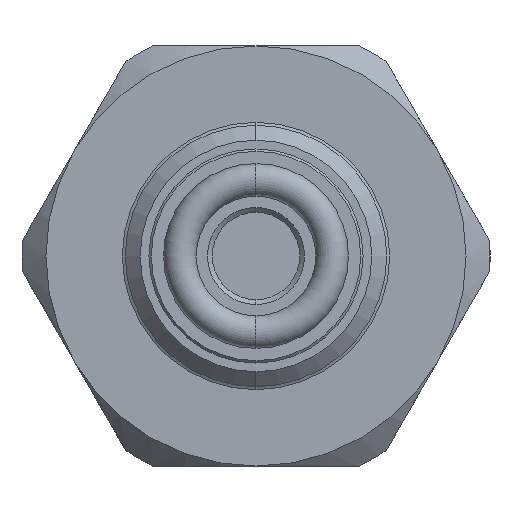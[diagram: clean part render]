
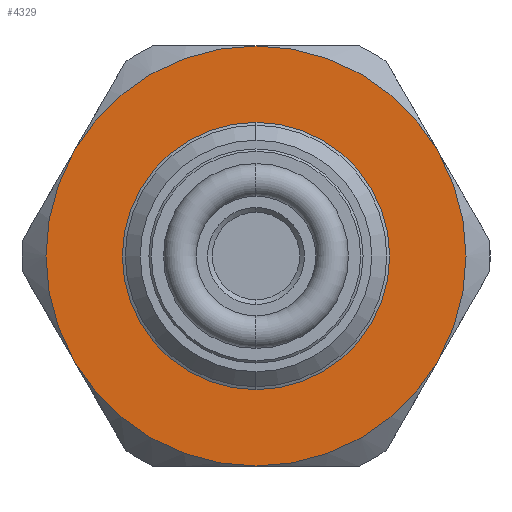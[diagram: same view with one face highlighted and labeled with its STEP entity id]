
A CAD part, left-side view. The second image highlights one B-rep face of the part: STEP entity #4329.
In plain terms, the highlighted planar face has unit normal (-1, 0, 0).
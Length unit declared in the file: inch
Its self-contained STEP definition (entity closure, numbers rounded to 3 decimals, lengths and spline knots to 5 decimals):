
#75 = CIRCLE ( 'NONE', #2194, 0.271 ) ;
#325 = EDGE_CURVE ( 'NONE', #14971, #16206, #2082, .T. ) ;
#921 = AXIS2_PLACEMENT_3D ( 'NONE', #12868, #1453, #1126 ) ;
#1126 = DIRECTION ( 'NONE',  ( 0., 0., 1. ) ) ;
#1347 = CIRCLE ( 'NONE', #8024, 0.4375 ) ;
#1363 = CARTESIAN_POINT ( 'NONE',  ( 0.6175, 0., 0. ) ) ;
#1418 = AXIS2_PLACEMENT_3D ( 'NONE', #1363, #11533, #5050 ) ;
#1453 = DIRECTION ( 'NONE',  ( -1., 0., 0. ) ) ;
#1577 = ORIENTED_EDGE ( 'NONE', *, *, #9438, .T. ) ;
#1689 = VERTEX_POINT ( 'NONE', #1878 ) ;
#1878 = CARTESIAN_POINT ( 'NONE',  ( 0.6175, 0., -0.4375 ) ) ;
#2082 = CIRCLE ( 'NONE', #7354, 0.4375 ) ;
#2194 = AXIS2_PLACEMENT_3D ( 'NONE', #5809, #8145, #6819 ) ;
#2428 = DIRECTION ( 'NONE',  ( 0., 0., 1. ) ) ;
#2478 = CARTESIAN_POINT ( 'NONE',  ( 0.6175, 0.37889, 0.21875 ) ) ;
#2587 = EDGE_CURVE ( 'NONE', #16206, #16185, #1347, .T. ) ;
#2628 = AXIS2_PLACEMENT_3D ( 'NONE', #13768, #3608, #2428 ) ;
#2641 = VERTEX_POINT ( 'NONE', #2818 ) ;
#2763 = ORIENTED_EDGE ( 'NONE', *, *, #16478, .T. ) ;
#2818 = CARTESIAN_POINT ( 'NONE',  ( 0.6175, -0.37889, 0.21875 ) ) ;
#3272 = CIRCLE ( 'NONE', #13382, 0.4375 ) ;
#3359 = CARTESIAN_POINT ( 'NONE',  ( 0.6175, 0., -0.271 ) ) ;
#3387 = DIRECTION ( 'NONE',  ( -1., 0., 0. ) ) ;
#3410 = FACE_BOUND ( 'NONE', #14866, .T. ) ;
#3608 = DIRECTION ( 'NONE',  ( -1., 0., 0. ) ) ;
#3697 = ORIENTED_EDGE ( 'NONE', *, *, #4753, .T. ) ;
#3817 = CARTESIAN_POINT ( 'NONE',  ( 0.6175, 0.37889, -0.21875 ) ) ;
#3947 = DIRECTION ( 'NONE',  ( 0., 0., 1. ) ) ;
#4329 = ADVANCED_FACE ( 'NONE', ( #3410, #8593 ), #7345, .T. ) ;
#4435 = VERTEX_POINT ( 'NONE', #8506 ) ;
#4512 = CIRCLE ( 'NONE', #2628, 0.4375 ) ;
#4753 = EDGE_CURVE ( 'NONE', #14484, #2641, #3272, .T. ) ;
#4980 = ORIENTED_EDGE ( 'NONE', *, *, #14397, .T. ) ;
#5050 = DIRECTION ( 'NONE',  ( 0., 0., 1. ) ) ;
#5560 = AXIS2_PLACEMENT_3D ( 'NONE', #9894, #11294, #9024 ) ;
#5809 = CARTESIAN_POINT ( 'NONE',  ( 0.6175, 0., 0. ) ) ;
#5909 = CARTESIAN_POINT ( 'NONE',  ( 0.6175, 0., 0. ) ) ;
#6267 = EDGE_LOOP ( 'NONE', ( #6603, #12115, #6870, #6816, #2763, #3697 ) ) ;
#6603 = ORIENTED_EDGE ( 'NONE', *, *, #10641, .T. ) ;
#6816 = ORIENTED_EDGE ( 'NONE', *, *, #15459, .T. ) ;
#6819 = DIRECTION ( 'NONE',  ( 0., 0., 1. ) ) ;
#6870 = ORIENTED_EDGE ( 'NONE', *, *, #2587, .T. ) ;
#7067 = DIRECTION ( 'NONE',  ( 0., 0., 1. ) ) ;
#7097 = CARTESIAN_POINT ( 'NONE',  ( 0.6175, 0., 0.4375 ) ) ;
#7345 = PLANE ( 'NONE',  #11515 ) ;
#7354 = AXIS2_PLACEMENT_3D ( 'NONE', #11375, #15376, #3947 ) ;
#7481 = DIRECTION ( 'NONE',  ( -1., 0., 0. ) ) ;
#8024 = AXIS2_PLACEMENT_3D ( 'NONE', #9740, #3387, #7067 ) ;
#8145 = DIRECTION ( 'NONE',  ( 1., 0., 0. ) ) ;
#8506 = CARTESIAN_POINT ( 'NONE',  ( 0.6175, 0., 0.271 ) ) ;
#8593 = FACE_OUTER_BOUND ( 'NONE', #6267, .T. ) ;
#8751 = CARTESIAN_POINT ( 'NONE',  ( 0.6175, 0., 0. ) ) ;
#9024 = DIRECTION ( 'NONE',  ( 0., 0., 1. ) ) ;
#9157 = CIRCLE ( 'NONE', #1418, 0.4375 ) ;
#9438 = EDGE_CURVE ( 'NONE', #15784, #4435, #12984, .T. ) ;
#9740 = CARTESIAN_POINT ( 'NONE',  ( 0.6175, 0., 0. ) ) ;
#9840 = DIRECTION ( 'NONE',  ( 0., 0., 1. ) ) ;
#9894 = CARTESIAN_POINT ( 'NONE',  ( 0.6175, 0., 0. ) ) ;
#10641 = EDGE_CURVE ( 'NONE', #2641, #14971, #4512, .T. ) ;
#10978 = DIRECTION ( 'NONE',  ( 0., 0., 1. ) ) ;
#11294 = DIRECTION ( 'NONE',  ( 1., 0., 0. ) ) ;
#11375 = CARTESIAN_POINT ( 'NONE',  ( 0.6175, 0., 0. ) ) ;
#11515 = AXIS2_PLACEMENT_3D ( 'NONE', #8751, #14838, #9840 ) ;
#11533 = DIRECTION ( 'NONE',  ( -1., 0., 0. ) ) ;
#12115 = ORIENTED_EDGE ( 'NONE', *, *, #325, .T. ) ;
#12868 = CARTESIAN_POINT ( 'NONE',  ( 0.6175, 0., 0. ) ) ;
#12984 = CIRCLE ( 'NONE', #5560, 0.271 ) ;
#13382 = AXIS2_PLACEMENT_3D ( 'NONE', #5909, #7481, #10978 ) ;
#13768 = CARTESIAN_POINT ( 'NONE',  ( 0.6175, 0., 0. ) ) ;
#14397 = EDGE_CURVE ( 'NONE', #4435, #15784, #75, .T. ) ;
#14484 = VERTEX_POINT ( 'NONE', #16053 ) ;
#14838 = DIRECTION ( 'NONE',  ( -1., 0., 0. ) ) ;
#14866 = EDGE_LOOP ( 'NONE', ( #4980, #1577 ) ) ;
#14971 = VERTEX_POINT ( 'NONE', #7097 ) ;
#15025 = CIRCLE ( 'NONE', #921, 0.4375 ) ;
#15376 = DIRECTION ( 'NONE',  ( -1., 0., 0. ) ) ;
#15459 = EDGE_CURVE ( 'NONE', #16185, #1689, #9157, .T. ) ;
#15784 = VERTEX_POINT ( 'NONE', #3359 ) ;
#16053 = CARTESIAN_POINT ( 'NONE',  ( 0.6175, -0.37889, -0.21875 ) ) ;
#16185 = VERTEX_POINT ( 'NONE', #3817 ) ;
#16206 = VERTEX_POINT ( 'NONE', #2478 ) ;
#16478 = EDGE_CURVE ( 'NONE', #1689, #14484, #15025, .T. ) ;
